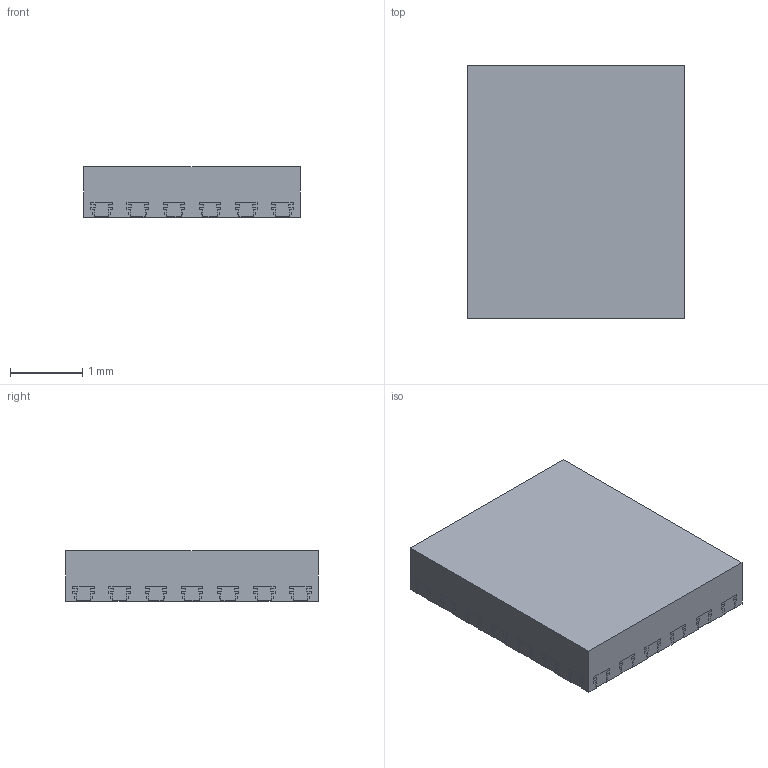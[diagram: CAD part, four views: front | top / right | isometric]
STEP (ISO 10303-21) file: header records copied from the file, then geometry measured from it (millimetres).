
FILE_DESCRIPTION((''),'2;1');
FILE_NAME('RZR0016A_ASM','2022-07-14T08:05:42',('a0412086'),(''),'CREO PARAMETRIC BY PTC INC, 2018500','CREO PARAMETRIC BY PTC INC, 2018500','');
FILE_SCHEMA(('CONFIG_CONTROL_DESIGN','SHAPE_APPEARANCE_LAYERS_GROUPS'));
Products named in the file (3): RZR0016A_FRAME; RZR0016A_MOLD; RZR0016A_ASM
Assembly tree (2 placements, depth 2):
  RZR0016A_ASM
    RZR0016A_FRAME
    RZR0016A_MOLD
Bounding box: 3 x 3.5 x 0.7 mm (x, y, z)
Volume: 7.3 mm3; surface area: 47.3 mm2
Topology: 17 solids, 17 shells, 1795 faces, 5176 edges, 3416 vertices
Faces by surface type: plane 1521, cylinder 274
Entity records: 73972 total; most frequent: CARTESIAN_POINT 10392, ORIENTED_EDGE 10352, DIRECTION 9324, PRESENTATION_STYLE_ASSIGNMENT 5219, STYLED_ITEM 5193, CURVE_STYLE 5176, EDGE_CURVE 5176, VECTOR 4628
